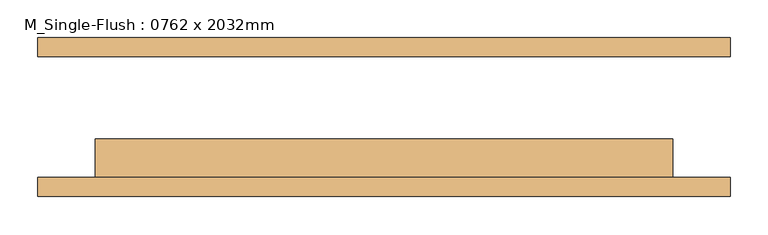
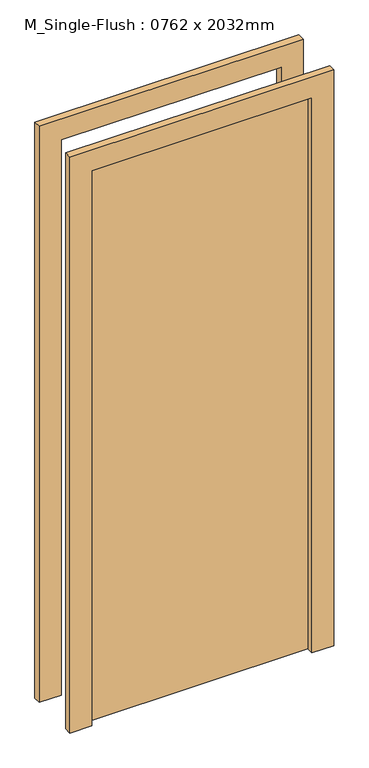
"""IFC4 building model written with IfcOpenShell, lengths in millimetres: door geometry, M_Single-Flush : 0762 x 2032mm."""

from ifc_helpers import new_model, si_unit, frame, origin, origin_with_axes, place, context, project, spatial, polyline, outline, extrude, source, transform, mapped, element, save


def m_single_flush_0762_x_2032mm_6f5f7af1(model_context):
    return source(origin(), model_context, "Body", "SweptSolid", [
        extrude(outline(polyline([(2108.0, -457.0), (0.0, -457.0), (0.0, -381.0), (2032.0, -381.0), (2032.0, 381.0), (0.0, 381.0), (0.0, 457.0), (2108.0, 457.0), (2108.0, -457.0)])), frame((0.0, -105.0, 0.0), z_axis=(0.0, 1.0, 0.0), x_axis=(0.0, 0.0, 1.0)), (0.0, 0.0, 1.0), 25.0),
        extrude(outline(polyline([(2108.0, 457.0), (2108.0, -457.0), (0.0, -457.0), (0.0, -381.0), (2032.0, -381.0), (2032.0, 381.0), (0.0, 381.0), (0.0, 457.0), (2108.0, 457.0)])), frame((0.0, 80.0, 0.0), z_axis=(0.0, 1.0, 0.0), x_axis=(0.0, 0.0, 1.0)), (0.0, 0.0, 1.0), 25.0),
        extrude(outline(polyline([(381.0, -29.0), (381.0, -80.0), (-381.0, -80.0), (-381.0, -29.0), (381.0, -29.0)])), origin_with_axes(), (0.0, 0.0, 1.0), 2032.0),
    ])


if __name__ == "__main__":
    model = new_model("IFC4")
    model_context = context("Model", 3, world=origin())
    ifc_project = project(units=[si_unit("LENGTHUNIT", "METRE", prefix="MILLI")], contexts=[model_context])
    site = spatial("IfcSite", under=ifc_project)
    building = spatial("IfcBuilding", under=site)
    placement = place(None, origin())
    m_single_flush_0762_x_2032mm_shape = m_single_flush_0762_x_2032mm_6f5f7af1(model_context)
    element("IfcDoor", 1, ObjectType="M_Single-Flush : 0762 x 2032mm", at=placement, inside=building, context=model_context, shape_type="MappedRepresentation", body=[
        mapped(m_single_flush_0762_x_2032mm_shape, transform((0.0, 0.0, 0.0), x_axis=(1.0, 0.0, 0.0), y_axis=(0.0, 1.0, 0.0), z_axis=(0.0, 0.0, 1.0))),
    ])
    save(model, "model.ifc")
